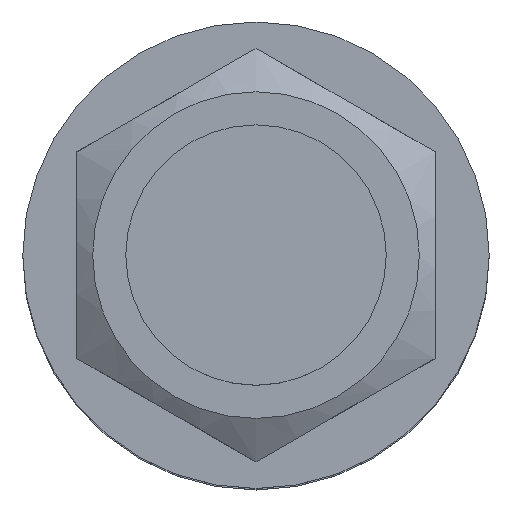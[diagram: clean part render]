
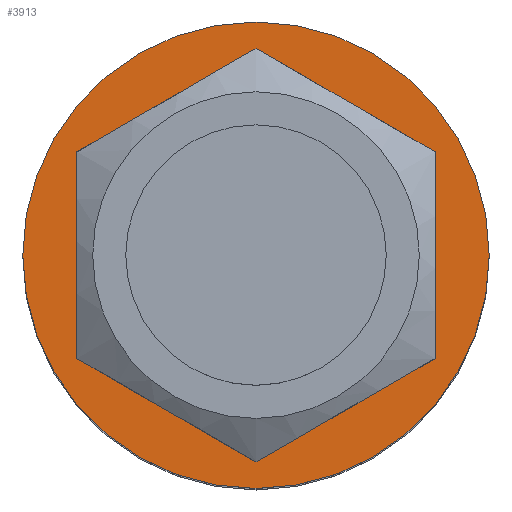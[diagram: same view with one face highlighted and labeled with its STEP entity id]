
A CAD part, top view. The second image highlights one B-rep face of the part: STEP entity #3913.
In plain terms, the highlighted planar face has unit normal (0, 0, 1).
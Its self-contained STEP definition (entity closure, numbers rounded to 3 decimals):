
#146=FACE_BOUND('',#751,.T.);
#255=PLANE('',#4162);
#527=FACE_OUTER_BOUND('',#750,.T.);
#750=EDGE_LOOP('',(#3388));
#751=EDGE_LOOP('',(#3389));
#1333=CIRCLE('',#4119,7.526);
#1350=CIRCLE('',#4163,10.75);
#1823=VERTEX_POINT('',#8402);
#1851=VERTEX_POINT('',#8535);
#2318=EDGE_CURVE('',#1823,#1823,#1333,.T.);
#2367=EDGE_CURVE('',#1851,#1851,#1350,.T.);
#3388=ORIENTED_EDGE('',*,*,#2367,.F.);
#3389=ORIENTED_EDGE('',*,*,#2318,.T.);
#3913=ADVANCED_FACE('',(#527,#146),#255,.F.);
#4119=AXIS2_PLACEMENT_3D('',#8404,#4781,#4782);
#4162=AXIS2_PLACEMENT_3D('',#8534,#4885,#4886);
#4163=AXIS2_PLACEMENT_3D('',#8536,#4887,#4888);
#4781=DIRECTION('center_axis',(0.,0.,-1.));
#4782=DIRECTION('ref_axis',(1.,0.,0.));
#4885=DIRECTION('center_axis',(0.,0.,-1.));
#4886=DIRECTION('ref_axis',(-1.,0.,0.));
#4887=DIRECTION('center_axis',(0.,0.,-1.));
#4888=DIRECTION('ref_axis',(-1.,0.,0.));
#8402=CARTESIAN_POINT('',(0.,-7.526,-5.));
#8404=CARTESIAN_POINT('Origin',(0.,0.,-5.));
#8534=CARTESIAN_POINT('Origin',(0.,0.,-5.));
#8535=CARTESIAN_POINT('',(10.75,0.,-5.));
#8536=CARTESIAN_POINT('Origin',(0.,0.,-5.));
